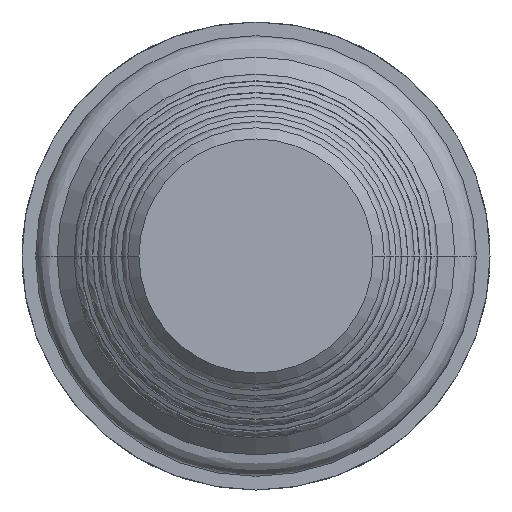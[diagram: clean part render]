
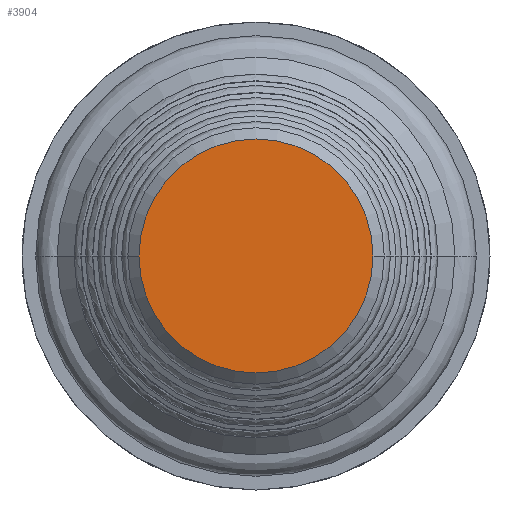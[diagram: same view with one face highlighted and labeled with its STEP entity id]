
A CAD part, front view. The second image highlights one B-rep face of the part: STEP entity #3904.
In plain terms, the highlighted planar face has unit normal (0, -1, 0).
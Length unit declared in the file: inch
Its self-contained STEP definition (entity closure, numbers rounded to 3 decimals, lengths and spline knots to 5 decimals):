
#589=CARTESIAN_POINT('',(0.,-4.178,0.));
#590=DIRECTION('',(0.,1.,0.));
#591=DIRECTION('',(-1.,0.,0.));
#592=AXIS2_PLACEMENT_3D('',#589,#590,#591);
#599=CARTESIAN_POINT('',(0.,-4.178,0.));
#600=DIRECTION('',(0.,1.,0.));
#601=DIRECTION('',(1.,0.,0.));
#602=AXIS2_PLACEMENT_3D('',#599,#600,#601);
#2481=CARTESIAN_POINT('',(-0.3125,-4.178,0.));
#2482=CARTESIAN_POINT('',(0.3125,-4.178,0.));
#2483=VERTEX_POINT('',#2481);
#2484=VERTEX_POINT('',#2482);
#3894=CARTESIAN_POINT('',(0.,-4.178,0.));
#3895=DIRECTION('',(0.,-1.,0.));
#3896=DIRECTION('',(-1.,0.,0.));
#3897=AXIS2_PLACEMENT_3D('',#3894,#3895,#3896);
#3898=PLANE('',#3897);
#3899=ORIENTED_EDGE('',*,*,#3884,.T.);
#3901=ORIENTED_EDGE('',*,*,#3900,.T.);
#3902=EDGE_LOOP('',(#3899,#3901));
#3903=FACE_OUTER_BOUND('',#3902,.F.);
#3904=ADVANCED_FACE('',(#3903),#3898,.T.);
#593=CIRCLE('',#592,0.3125);
#603=CIRCLE('',#602,0.3125);
#3884=EDGE_CURVE('',#2483,#2484,#593,.T.);
#3900=EDGE_CURVE('',#2484,#2483,#603,.T.);
